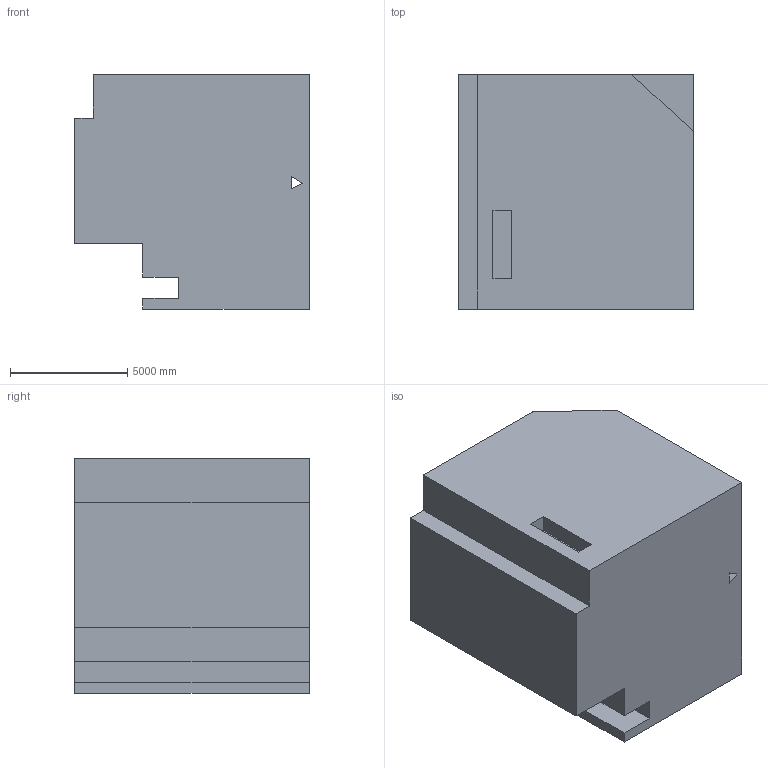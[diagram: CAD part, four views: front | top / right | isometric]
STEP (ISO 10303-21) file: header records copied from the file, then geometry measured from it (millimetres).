
FILE_DESCRIPTION (( 'STEP AP203' ), '1' );
FILE_NAME ('159.STEP', '2022-09-06T15:16:30', ( 'user' ), ( '' ), 'SwSTEP 2.0', 'SolidWorks 2021', '' );
FILE_SCHEMA (( 'CONFIG_CONTROL_DESIGN' ));
Length unit declared in the file: centimetre
Products named in the file (1): 159
Bounding box: 10000 x 10000 x 10000 mm (x, y, z)
Volume: 868585470996.4 mm3; surface area: 618066472.2 mm2
Topology: 1 solids, 1 shells, 24 faces, 63 edges, 42 vertices
Faces by surface type: plane 24
Entity records: 808 total; most frequent: CARTESIAN_POINT 130, ORIENTED_EDGE 126, DIRECTION 113, LINE 63, VECTOR 63, EDGE_CURVE 63, VERTEX_POINT 42, EDGE_LOOP 27
